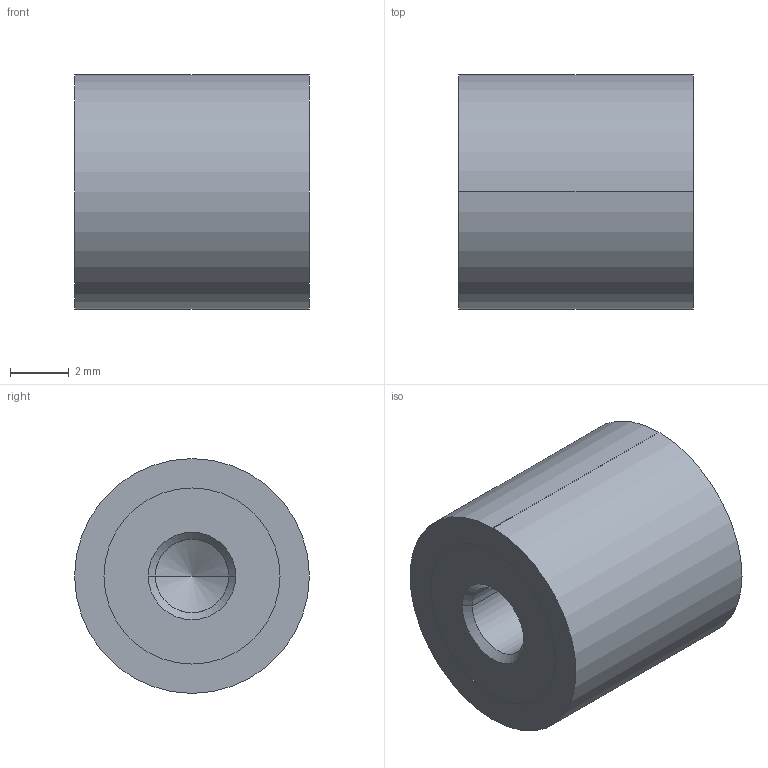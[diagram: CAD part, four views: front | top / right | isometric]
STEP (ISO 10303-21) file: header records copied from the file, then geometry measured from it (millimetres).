
FILE_DESCRIPTION (( 'STEP AP214' ), '1' );
FILE_NAME ('351-8-8-M3-EE-70.step', '2025-07-23T09:39:14', ( '' ), ( '' ), 'SwSTEP 2.0', 'SolidWorks 2022', '' );
FILE_SCHEMA (( 'AUTOMOTIVE_DESIGN' ));
Length unit declared in the file: millimetre
Products named in the file (1): 351-8-8-M3-EE-70
Bounding box: 8 x 8 x 8 mm (x, y, z)
Volume: 367.5 mm3; surface area: 351.4 mm2
Topology: 1 solids, 1 shells, 28 faces, 58 edges, 34 vertices
Faces by surface type: cylinder 14, cone 8, plane 6
Entity records: 844 total; most frequent: DIRECTION 144, CARTESIAN_POINT 117, ORIENTED_EDGE 108, AXIS2_PLACEMENT_3D 61, EDGE_CURVE 54, VERTEX_POINT 34, EDGE_LOOP 34, CIRCLE 32
